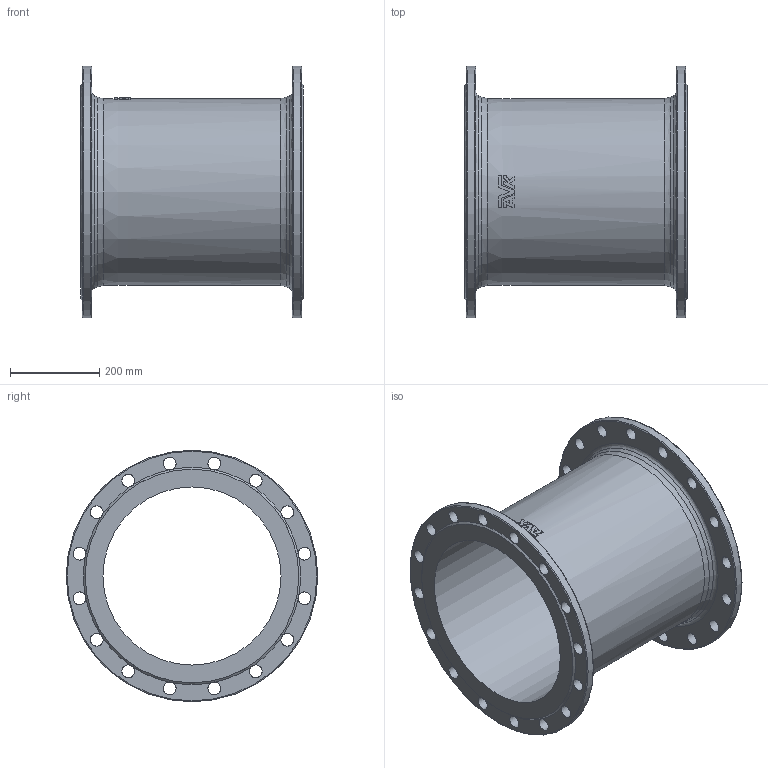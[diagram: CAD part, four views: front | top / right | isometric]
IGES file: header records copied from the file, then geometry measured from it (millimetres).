
Start section: SolidWorks IGES file using analytic representation for surfaces
Global section: file name: \\avksan2\techshare\PBM outline export from Enovia\O_712_4810_DN400_0X_REV01.igs; native system: SolidWorks 2019; preprocessor: SolidWorks 2019; author: pbm; date: 211201.120047; units: millimetre
Bounding box: 500 x 565 x 565 mm (x, y, z)
Surface area: 1764889.4 mm2 (no closed solid volume)
Topology: 0 solids, 0 shells, 95 faces, 605 edges, 556 vertices
Faces by surface type: revolution 52, bspline 43
